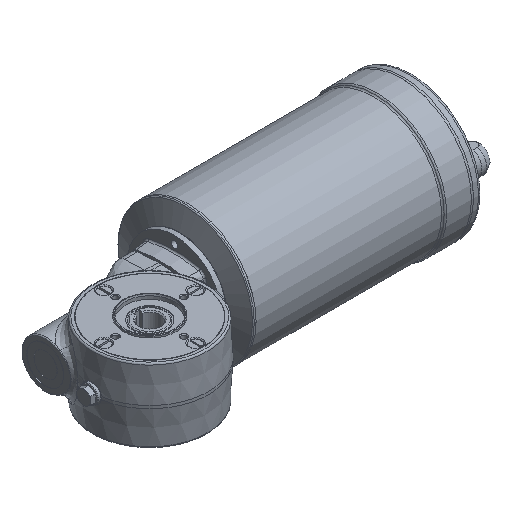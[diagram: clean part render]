
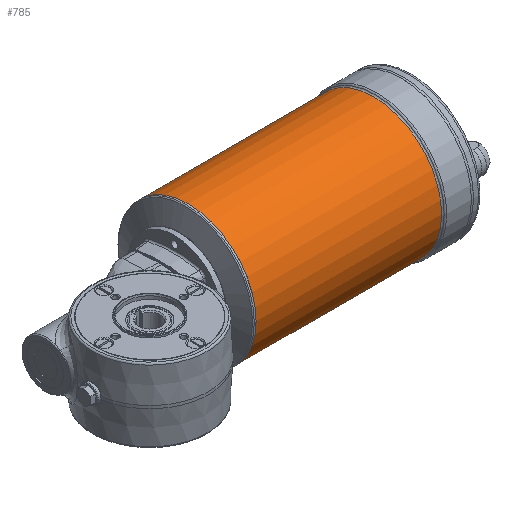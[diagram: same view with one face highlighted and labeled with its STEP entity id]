
A CAD part, isometric view. The second image highlights one B-rep face of the part: STEP entity #785.
In plain terms, the highlighted cylindrical face has radius 64.5 mm (diameter 129 mm), a full revolution.
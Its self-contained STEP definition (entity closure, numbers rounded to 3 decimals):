
#785 = ADVANCED_FACE( '', ( #1922, #1923 ), #1924, .T. );
#1922 = FACE_OUTER_BOUND( '', #5498, .T. );
#1923 = FACE_OUTER_BOUND( '', #5499, .T. );
#1924 = CYLINDRICAL_SURFACE( '', #5500, 64.5 );
#5498 = EDGE_LOOP( '', ( #10600 ) );
#5499 = EDGE_LOOP( '', ( #10601 ) );
#5500 = AXIS2_PLACEMENT_3D( '', #10602, #10603, #10604 );
#10600 = ORIENTED_EDGE( '', *, *, #13338, .T. );
#10601 = ORIENTED_EDGE( '', *, *, #13339, .T. );
#10602 = CARTESIAN_POINT( '', ( 241.668, 45., 0. ) );
#10603 = DIRECTION( '', ( -1., 0., 0. ) );
#10604 = DIRECTION( '', ( 0., -1., 0. ) );
#13338 = EDGE_CURVE( '', #14997, #14997, #14998, .F. );
#13339 = EDGE_CURVE( '', #14999, #14999, #15000, .T. );
#14997 = VERTEX_POINT( '', #18510 );
#14998 = CIRCLE( '', #18511, 64.5 );
#14999 = VERTEX_POINT( '', #18512 );
#15000 = CIRCLE( '', #18513, 64.5 );
#18510 = CARTESIAN_POINT( '', ( 257.672, -19.5, 0. ) );
#18511 = AXIS2_PLACEMENT_3D( '', #21234, #21235, #21236 );
#18512 = CARTESIAN_POINT( '', ( 81.5, -19.5, 0. ) );
#18513 = AXIS2_PLACEMENT_3D( '', #21237, #21238, #21239 );
#21234 = CARTESIAN_POINT( '', ( 257.672, 45., 0. ) );
#21235 = DIRECTION( '', ( 1., 0., 0. ) );
#21236 = DIRECTION( '', ( 0., -1., 0. ) );
#21237 = CARTESIAN_POINT( '', ( 81.5, 45., 0. ) );
#21238 = DIRECTION( '', ( 1., 0., 0. ) );
#21239 = DIRECTION( '', ( 0., -1., 0. ) );
